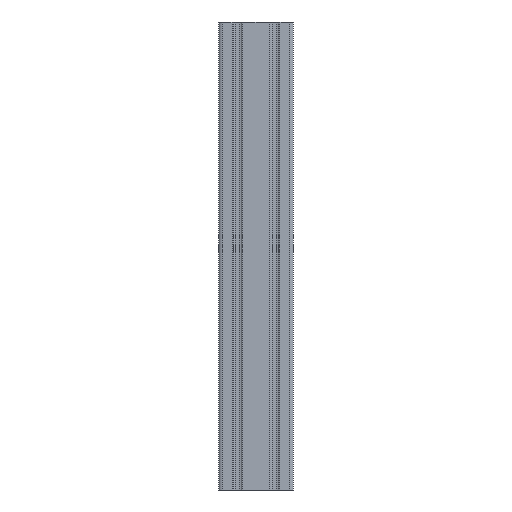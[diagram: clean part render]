
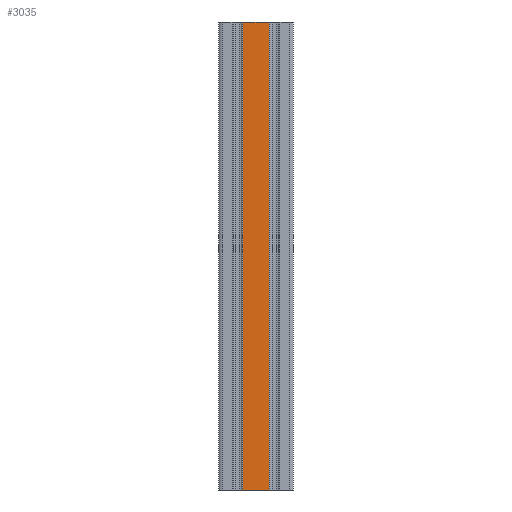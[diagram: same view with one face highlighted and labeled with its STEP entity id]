
A CAD part, front view. The second image highlights one B-rep face of the part: STEP entity #3035.
In plain terms, the highlighted planar face has unit normal (0, -1, 0).
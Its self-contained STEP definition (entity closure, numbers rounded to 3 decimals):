
#193 = CARTESIAN_POINT ( 'NONE',  ( -6100.584, -5228.658, 500. ) ) ;
#194 = LINE ( 'NONE', #193, #237 ) ;
#236 = DIRECTION ( 'NONE',  ( 0., 0., -1. ) ) ;
#237 = VECTOR ( 'NONE', #236, 1000. ) ;
#678 = CARTESIAN_POINT ( 'NONE',  ( -6129.384, -5228.658, 500. ) ) ;
#884 = LINE ( 'NONE', #678, #1224 ) ;
#1204 = DIRECTION ( 'NONE',  ( 0., 0., -1. ) ) ;
#1224 = VECTOR ( 'NONE', #1204, 1000. ) ;
#1278 = DIRECTION ( 'NONE',  ( 0., 0., 1. ) ) ;
#1279 = DIRECTION ( 'NONE',  ( 0., 1., 0. ) ) ;
#1280 = CARTESIAN_POINT ( 'NONE',  ( -6129.384, -5228.658, 500. ) ) ;
#1288 = PLANE ( 'NONE',  #1289 ) ;
#1289 = AXIS2_PLACEMENT_3D ( 'NONE', #1280, #1279, #1278 ) ;
#1293 = FACE_OUTER_BOUND ( 'NONE', #3115, .T. ) ;
#1788 = VERTEX_POINT ( 'NONE', #3595 ) ;
#1998 = VERTEX_POINT ( 'NONE', #3984 ) ;
#2080 = EDGE_CURVE ( 'NONE', #2160, #1998, #3923, .T. ) ;
#2132 = EDGE_CURVE ( 'NONE', #2152, #1788, #4183, .T. ) ;
#2152 = VERTEX_POINT ( 'NONE', #4276 ) ;
#2160 = VERTEX_POINT ( 'NONE', #4328 ) ;
#2330 = EDGE_CURVE ( 'NONE', #1788, #1998, #194, .T. ) ;
#3033 = ORIENTED_EDGE ( 'NONE', *, *, #3041, .T. ) ;
#3035 = ADVANCED_FACE ( 'NONE', ( #1293 ), #1288, .F. ) ;
#3036 = ORIENTED_EDGE ( 'NONE', *, *, #2132, .F. ) ;
#3037 = ORIENTED_EDGE ( 'NONE', *, *, #2330, .F. ) ;
#3041 = EDGE_CURVE ( 'NONE', #2152, #2160, #884, .T. ) ;
#3113 = ORIENTED_EDGE ( 'NONE', *, *, #2080, .T. ) ;
#3115 = EDGE_LOOP ( 'NONE', ( #3113, #3037, #3036, #3033 ) ) ;
#3595 = CARTESIAN_POINT ( 'NONE',  ( -6100.584, -5228.658, 500. ) ) ;
#3923 = LINE ( 'NONE', #3934, #3929 ) ;
#3928 = DIRECTION ( 'NONE',  ( 1., 0., 0. ) ) ;
#3929 = VECTOR ( 'NONE', #3928, 1000. ) ;
#3934 = CARTESIAN_POINT ( 'NONE',  ( -6129.384, -5228.658, 0. ) ) ;
#3984 = CARTESIAN_POINT ( 'NONE',  ( -6100.584, -5228.658, 0. ) ) ;
#4180 = DIRECTION ( 'NONE',  ( 1., 0., 0. ) ) ;
#4181 = VECTOR ( 'NONE', #4180, 1000. ) ;
#4182 = CARTESIAN_POINT ( 'NONE',  ( -6129.384, -5228.658, 500. ) ) ;
#4183 = LINE ( 'NONE', #4182, #4181 ) ;
#4276 = CARTESIAN_POINT ( 'NONE',  ( -6129.384, -5228.658, 500. ) ) ;
#4328 = CARTESIAN_POINT ( 'NONE',  ( -6129.384, -5228.658, 0. ) ) ;
